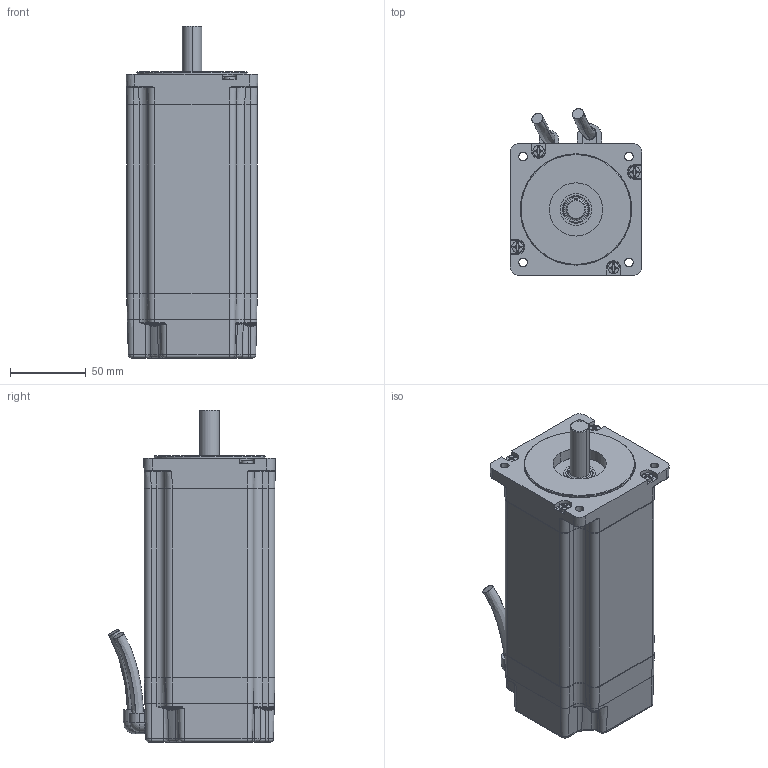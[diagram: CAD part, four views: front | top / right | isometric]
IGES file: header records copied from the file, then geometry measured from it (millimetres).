
Start section:  PTC IGES file: vlm33d.igs
Global section: file name: vlm33d.igs; native system: Pro/ENGINEER by Parametric Technology Corporation; preprocessor: 2006510; author: Ray.Dobbins; organization: Unknown; date: 20110727.091143; units: inch
Bounding box: 86.56 x 109.73 x 218.43 mm (x, y, z)
Surface area: 270454.3 mm2 (no closed solid volume)
Topology: 0 solids, 0 shells, 2085 faces, 11353 edges, 11345 vertices
Faces by surface type: revolution 1249, bspline 836
